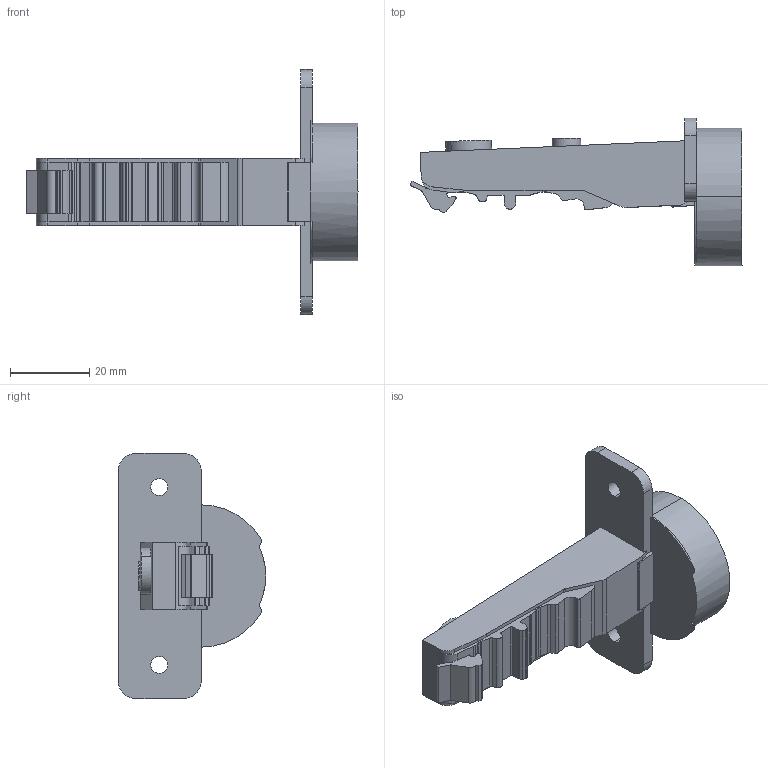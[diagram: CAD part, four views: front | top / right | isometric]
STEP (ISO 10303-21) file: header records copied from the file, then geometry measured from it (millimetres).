
FILE_DESCRIPTION (( 'STEP AP214' ), '1' );
FILE_NAME ('C82A675A-Close.STEP', '2025-07-19T08:37:31', ( '微软用户' ), ( '微软中国' ), 'SwSTEP 2.0', 'SolidWorks 2021', '' );
FILE_SCHEMA (( 'AUTOMOTIVE_DESIGN' ));
Length unit declared in the file: millimetre
Products named in the file (1): C82A675A-Close
Bounding box: 83.94 x 37.28 x 61.96 mm (x, y, z)
Volume: 30729.2 mm3; surface area: 9811.3 mm2
Topology: 1 solids, 1 shells, 127 faces, 369 edges, 246 vertices
Faces by surface type: plane 65, cylinder 62
Entity records: 4273 total; most frequent: CARTESIAN_POINT 761, DIRECTION 745, ORIENTED_EDGE 738, EDGE_CURVE 369, AXIS2_PLACEMENT_3D 254, VERTEX_POINT 246, VECTOR 237, LINE 237
